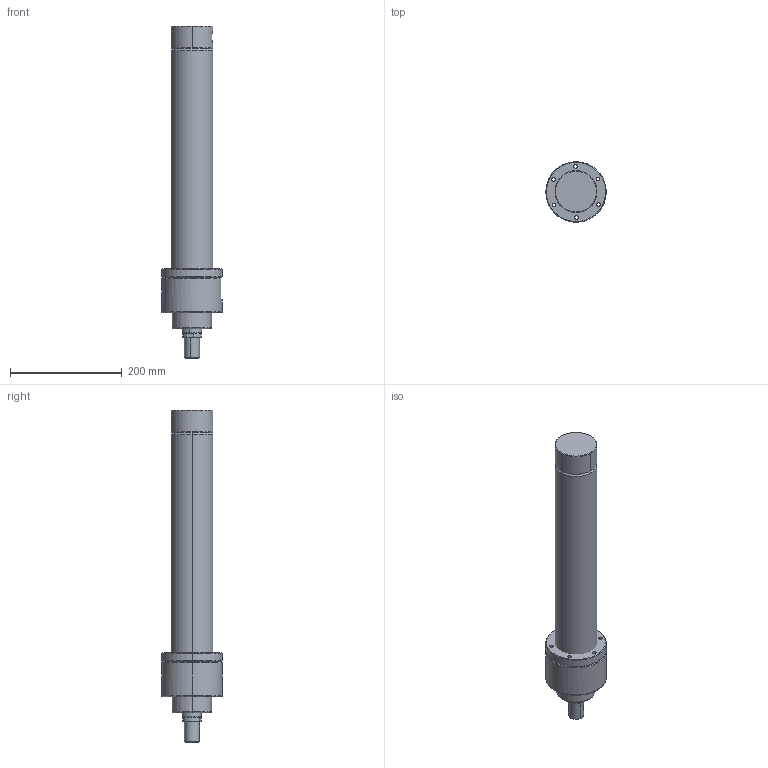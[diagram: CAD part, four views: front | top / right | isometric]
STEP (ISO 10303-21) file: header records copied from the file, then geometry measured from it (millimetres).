
FILE_DESCRIPTION (( 'STEP AP214' ), '1' );
FILE_NAME ('63-35-350-WEB.STEP', '2021-01-13T12:22:00', ( 'cagdas' ), ( '' ), 'SwSTEP 2.0', 'SolidWorks 2021', '' );
FILE_SCHEMA (( 'AUTOMOTIVE_DESIGN' ));
Length unit declared in the file: millimetre
Products named in the file (6): 63_36_CETOP_烰_KAPAK; 63-35-350-WEB; 63_Gerdirme _Flansý; 35_K_MIL_WEB; 63x75_BORU_WEB; TYAK_63_75
Assembly tree (5 placements, depth 2):
  63-35-350-WEB
    63x75_BORU_WEB
    TYAK_63_75
    63_36_CETOP_烰_KAPAK
    63_Gerdirme _Flansý
    35_K_MIL_WEB
Bounding box: 107.99 x 107.99 x 594 mm (x, y, z)
Volume: 1538889.7 mm3; surface area: 320858.7 mm2
Topology: 5 solids, 5 shells, 377 faces, 925 edges, 590 vertices
Faces by surface type: plane 120, cylinder 102, bspline 87, cone 64, torus 4
Entity records: 17240 total; most frequent: CARTESIAN_POINT 8406, ORIENTED_EDGE 1850, DIRECTION 1528, EDGE_CURVE 925, VERTEX_POINT 590, AXIS2_PLACEMENT_3D 575, EDGE_LOOP 443, LINE 378
